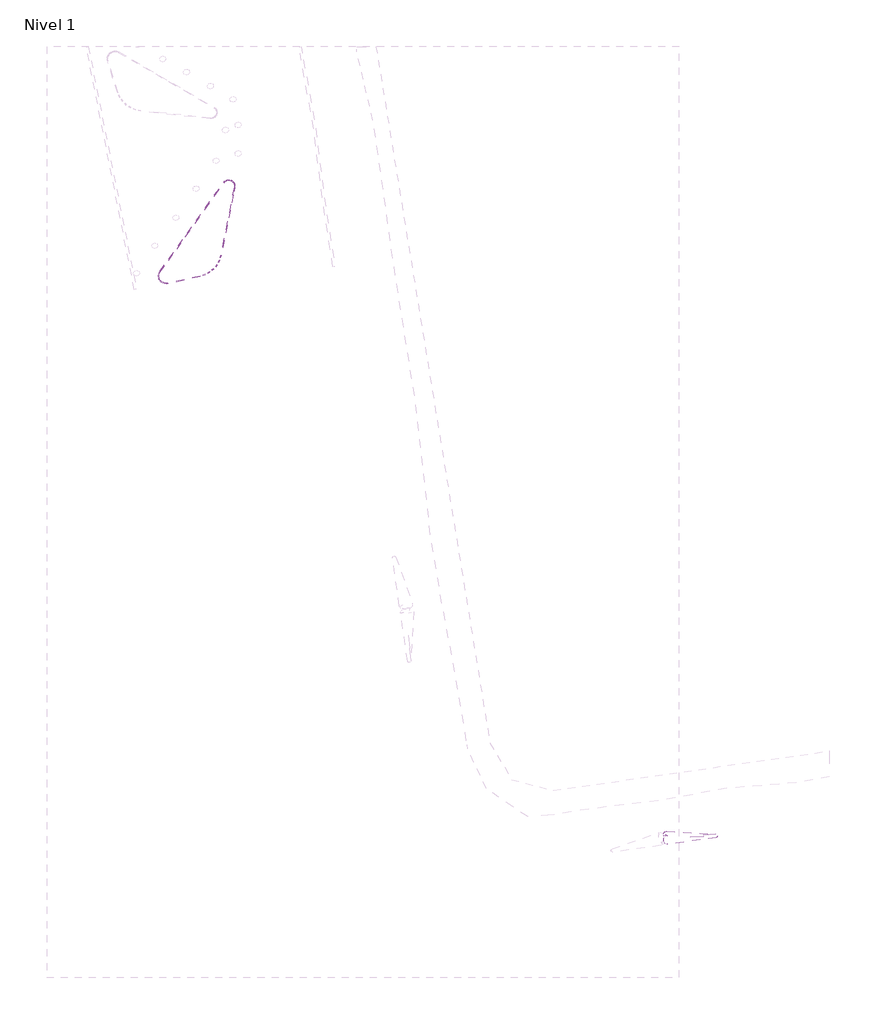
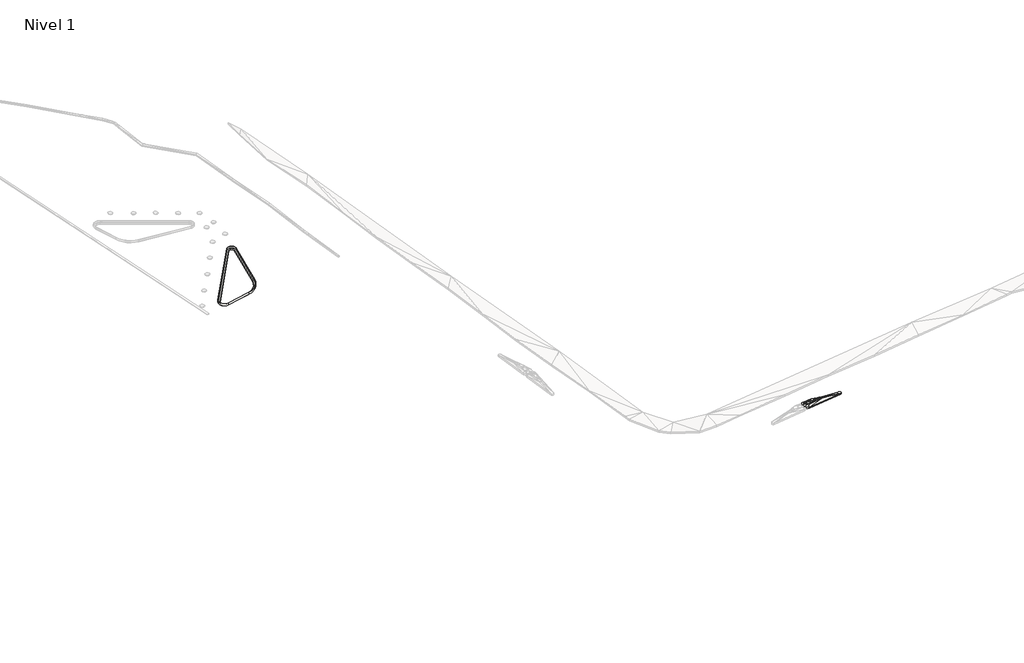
# One storey, part 22 of 45: 3 slabs.
"""IFC4 building model written with IfcOpenShell, lengths in millimetres."""

from ifc_helpers import new_model, si_unit, point, frame, frame_2d, origin, place, context, project, spatial, polyline, circle_curve, trimmed, segment, composite_curve, outline, extrude, element, save
from ifc_brep_helpers import plane_surface, cylinder_surface, revolved_surface, spline_surface, advanced_brep

model = new_model("IFC4")

# Units and contexts
model_context = context("Model", 3, world=origin())
ifc_project = project(units=[si_unit("LENGTHUNIT", "METRE", prefix="MILLI")], contexts=[model_context])

# Site, building, storey
site = spatial("IfcSite", under=ifc_project)
building = spatial("IfcBuilding", under=site)
storey = spatial("IfcBuildingStorey", under=building, Name="Nivel 1", Elevation=0.0)

# Slabs
placement = place(None, origin())
element("IfcSlab", 1, ObjectType="Lippia", at=placement, inside=storey, context=model_context, shape_type="AdvancedBrep", body=[
    advanced_brep(
    [(-261117.3024726, 32384.1914474, 4450.0), (-261117.3024726, 32384.1914474, 4750.0), (-261244.0737369, 33268.4863471, 4750.0), (-261244.0737369, 33268.4863471, 4450.0), (-260720.0315062, 33838.5932608, 4750.0), (-260720.0315062, 33838.5932608, 4450.0), (-253668.9456404, 33450.2364035, 4750.0), (-253668.9456404, 33450.2364035, 4450.0), (-253648.473085, 32952.9636738, 4450.0), (-253648.473085, 32952.9636738, 4750.0), (-260553.7486586, 31963.1441472, 4750.0), (-260553.7486586, 31963.1441472, 4450.0), (-260557.0106471, 33156.6650893, 5050.0), (-260657.9708594, 32666.3753611, 5050.0), (-260557.0106471, 33156.6650893, 4750.0), (-260657.9708594, 32666.3753611, 4750.0), (-258834.7530662, 33162.1386706, 5250.0), (-259101.2837879, 33275.7652701, 5250.0), (-259367.8145097, 33389.3918696, 5250.0), (-259707.8595562, 33222.1320633, 5250.0), (-259545.4170187, 32803.2782052, 5250.0), (-259262.5825667, 32744.7394856, 5250.0), (-259028.9960812, 32696.3936999, 5250.0), (-258691.8228878, 32858.5394125, 5250.0), (-258834.7530662, 33162.1386706, 4950.0), (-258691.8228878, 32858.5394125, 4950.0), (-259028.9960812, 32696.3936999, 4950.0), (-259262.5825667, 32744.7394856, 4950.0), (-259545.4170187, 32803.2782052, 4950.0), (-259707.8595562, 33222.1320633, 4950.0), (-259367.8145097, 33389.3918696, 4950.0), (-259101.2837879, 33275.7652701, 4950.0), (-260374.3464463, 32368.9868858, 5050.0), (-260594.0199557, 32443.4234835, 5050.0), (-260374.3464463, 32368.9868858, 4750.0), (-260594.0199557, 32443.4234835, 4750.0), (-260362.1933764, 33463.4940107, 5050.0), (-260362.1933764, 33463.4940107, 4750.0), (-260011.0632401, 33557.3310151, 5050.0), (-257554.6087555, 33295.0667742, 5050.0), (-257554.6087555, 33295.0667742, 4750.0), (-260011.0632401, 33557.3310151, 4750.0), (-257543.5970723, 32799.3156986, 5050.0), (-257543.5970723, 32799.3156986, 4750.0), (-257331.2116419, 33052.041782, 5050.0), (-257331.2116419, 33052.041782, 4750.0)],
    [
        (0, 1),
        (1, 2),
        (2, 3),
        (3, 0),
        (2, 4, circle_curve(frame((-260749.1303874, 33339.4407247, 4750.0), z_axis=(0.0, 0.0, -1.0), x_axis=(-0.22900703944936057, 0.9734247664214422, 0.0)), 499.9999992)),
        (4, 5),
        (5, 3, circle_curve(frame((-260749.1303874, 33339.4407247, 4450.0), z_axis=(0.0, 0.0, 1.0), x_axis=(-0.22900703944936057, 0.9734247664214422, 0.0)), 499.9999992)),
        (4, 6),
        (6, 7),
        (7, 5),
        (8, 9),
        (9, 10),
        (10, 11),
        (11, 8),
        (10, 1, circle_curve(frame((-260622.8323345, 32458.3485957, 4750.0), z_axis=(0.0, 0.0, -1.0), x_axis=(-0.22900703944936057, 0.9734247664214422, 0.0)), 500.0000001)),
        (0, 11, circle_curve(frame((-260622.8323345, 32458.3485957, 4450.0), z_axis=(0.0, 0.0, 1.0), x_axis=(-0.22900703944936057, 0.9734247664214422, 0.0)), 500.0000001)),
        (2, 12),
        (12, 4),
        (1, 13),
        (13, 2),
        (5, 14),
        (14, 3),
        (3, 15),
        (15, 0),
        (16, 17),
        (17, 18),
        (18, 19),
        (19, 20),
        (20, 21),
        (21, 22),
        (22, 23),
        (23, 16),
        (24, 25),
        (25, 26),
        (26, 27),
        (27, 28),
        (28, 29),
        (29, 30),
        (30, 31),
        (31, 24),
        (20, 32),
        (32, 22),
        (10, 32),
        (32, 33),
        (33, 10),
        (19, 32),
        (26, 34),
        (34, 28),
        (11, 35),
        (35, 34),
        (34, 11),
        (34, 29),
        (32, 12),
        (12, 13),
        (13, 33),
        (19, 12),
        (12, 36),
        (36, 4),
        (35, 15),
        (15, 14),
        (14, 34),
        (14, 29),
        (5, 37),
        (37, 14),
        (4, 38),
        (38, 39),
        (39, 4),
        (19, 38),
        (38, 36),
        (36, 19),
        (5, 40),
        (40, 41),
        (41, 5),
        (29, 37),
        (37, 41),
        (41, 29),
        (22, 42),
        (42, 23),
        (23, 39),
        (39, 16),
        (39, 18),
        (25, 43),
        (43, 26),
        (24, 40),
        (40, 25),
        (30, 40),
        (42, 39),
        (40, 43),
        (1, 33),
        (35, 0),
        (10, 42),
        (42, 32),
        (42, 44),
        (44, 39),
        (18, 38),
        (34, 43),
        (43, 11),
        (40, 45),
        (45, 43),
        (41, 30),
        (6, 9, circle_curve(frame((-253682.6944408, 33200.6103949, 4750.0), z_axis=(0.0, 0.0, -1.0), x_axis=(-0.22900703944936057, 0.9734247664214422, 0.0)), 249.9999994)),
        (8, 7, circle_curve(frame((-253682.6944408, 33200.6103949, 4450.0), z_axis=(0.0, 0.0, 1.0), x_axis=(-0.22900703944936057, 0.9734247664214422, 0.0)), 249.9999994)),
        (9, 42),
        (9, 44),
        (6, 44),
        (6, 39),
        (43, 8),
        (45, 8),
        (45, 7),
        (40, 7),
    ],
    [
        plane_surface(frame((-261117.3024726, 32384.1914474, 4450.0), z_axis=(-0.9898798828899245, -0.14190777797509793, 0.0), x_axis=(0.0, 0.0, 1.0))),
        cylinder_surface(frame((-260749.1303874, 33339.4407247, 4750.0), z_axis=(0.0, 0.0, -1.0000000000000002), x_axis=(-0.22900703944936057, 0.9734247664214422, 0.0)), 499.9999992),
        plane_surface(frame((-260720.0315062, 33838.5932608, 4450.0), z_axis=(0.054994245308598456, 0.9984866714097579, 0.0), x_axis=(0.0, 0.0, 1.0))),
        plane_surface(frame((-253648.473085, 32952.9636738, 4450.0), z_axis=(0.14189218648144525, -0.9898821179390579, 0.0), x_axis=(0.0, 0.0, 1.0))),
        cylinder_surface(frame((-260622.8323345, 32458.3485957, 4750.0), z_axis=(0.0, 0.0, -1.0000000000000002), x_axis=(-0.22900703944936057, 0.9734247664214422, 0.0)), 500.0000001),
        spline_surface(2, 1, [[(-260720.0315062, 33838.5932608, 4750.0), (-260557.0106471, 33156.6650893, 5050.0)], [(-260956.76537591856, 33852.39403361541, 4750.0), (-260557.0106471, 33156.6650893, 5050.0)], [(-261117.24355902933, 33677.808412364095, 4750.0), (-260557.0106471, 33156.6650893, 5050.0)], [(-261277.72174214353, 33503.222791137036, 4750.0), (-260557.0106471, 33156.6650893, 5050.0)], [(-261244.070328, 33268.4868358, 4750.0), (-260557.0106471, 33156.6650893, 5050.0)]], [3, 2, 3], [2, 2], [0.0, 1.0, 2.0], [0.0, 1.0], weights=[[1.0, 1.0], [0.903532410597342, 0.903532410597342], [1.0, 1.0], [0.903532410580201, 0.903532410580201], [1.0, 1.0]]),
        plane_surface(frame((-261006.449023, 32773.0177186, 4850.0), z_axis=(-0.5132632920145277, -0.07358069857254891, 0.8550711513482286), x_axis=(0.1419077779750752, -0.9898798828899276, 0.0))),
        spline_surface(1, 2, [[(-260720.0315062, 33838.5932608, 4450.0), (-260956.76537591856, 33852.39403361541, 4450.0), (-261117.24355902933, 33677.808412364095, 4450.0), (-261277.72174214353, 33503.222791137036, 4450.0), (-261244.070328, 33268.4868358, 4450.0)], [(-260557.0106471, 33156.6650893, 4750.0), (-260557.0106471, 33156.6650893, 4750.0), (-260557.0106471, 33156.6650893, 4750.0), (-260557.0106471, 33156.6650893, 4750.0), (-260557.0106471, 33156.6650893, 4750.0)]], [2, 2], [3, 2, 3], [0.0, 1.0], [0.0, 1.0, 2.0], weights=[[1.0, 0.903532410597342, 1.0, 0.903532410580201, 1.0], [1.0, 0.903532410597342, 1.0, 0.903532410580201, 1.0]]),
        plane_surface(frame((-261006.449023, 32773.0177186, 4550.0), z_axis=(0.5132632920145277, 0.07358069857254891, -0.8550711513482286), x_axis=(0.1419077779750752, -0.9898798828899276, 0.0))),
        plane_surface(frame((-259196.11052, 33021.9789869, 5250.0), z_axis=(0.0, 0.0, 1.0), x_axis=(-0.9198942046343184, 0.39216661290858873, 0.0))),
        plane_surface(frame((-259196.11052, 33021.9789869, 4950.0), z_axis=(0.0, 0.0, -1.0), x_axis=(-0.9198942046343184, 0.39216661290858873, 0.0))),
        plane_surface(frame((-259649.5865154, 32622.8862636, 5183.3333333), z_axis=(-0.06474386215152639, -0.31281508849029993, 0.9476048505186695), x_axis=(-0.9792458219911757, 0.2026761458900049, 0.0))),
        plane_surface(frame((-260507.3716869, 32258.5181722, 4950.0), z_axis=(-0.18024430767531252, -0.5319278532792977, 0.8273842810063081), x_axis=(0.3349403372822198, 0.7577002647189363, 0.5600939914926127))),
        plane_surface(frame((-259875.8743404, 32798.1323848, 5183.3333333), z_axis=(-0.19604627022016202, -0.07603189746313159, 0.9776425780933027), x_axis=(-0.6053816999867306, -0.7749266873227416, -0.18166349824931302))),
        plane_surface(frame((-259649.5865154, 32622.8862636, 4883.3333333), z_axis=(0.06474386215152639, 0.31281508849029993, -0.9476048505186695), x_axis=(-0.9792458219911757, 0.2026761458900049, 0.0))),
        plane_surface(frame((-260507.3716869, 32258.5181722, 4650.0), z_axis=(0.18024430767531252, 0.5319278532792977, -0.8273842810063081), x_axis=(0.3349403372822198, 0.7577002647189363, 0.5600939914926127))),
        plane_surface(frame((-259875.8743404, 32798.1323848, 4883.3333333), z_axis=(0.19604627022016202, 0.07603189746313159, -0.9776425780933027), x_axis=(-0.6053816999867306, -0.7749266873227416, -0.18166349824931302))),
        plane_surface(frame((-260545.8369771, 32658.8627049, 5050.0), z_axis=(0.0, 0.0, 1.0), x_axis=(-0.225907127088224, 0.9741488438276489, 0.0))),
        plane_surface(frame((-260213.0722165, 32915.9280128, 5116.6666667), z_axis=(-0.2251283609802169, -0.05220773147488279, 0.9729293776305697), x_axis=(-0.9706368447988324, -0.07483315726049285, -0.2286134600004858))),
        plane_surface(frame((-260546.4118432, 33486.2507869, 4950.0), z_axis=(-0.43233658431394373, 0.27450682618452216, 0.858912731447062), x_axis=(0.2137618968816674, -0.8941816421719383, 0.39337646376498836))),
        plane_surface(frame((-260819.6850811, 33030.5089325, 4950.0), z_axis=(-0.3879314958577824, 0.07988265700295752, 0.9182199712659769), x_axis=(0.6569049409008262, -0.6748468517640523, 0.33624042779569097))),
        plane_surface(frame((-260545.8369771, 32658.8627049, 4750.0), z_axis=(0.0, 0.0, -1.0), x_axis=(-0.225907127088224, 0.9741488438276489, 0.0))),
        plane_surface(frame((-260213.0722165, 32915.9280128, 4816.6666667), z_axis=(0.2251283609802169, 0.05220773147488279, -0.9729293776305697), x_axis=(-0.9706368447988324, -0.07483315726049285, -0.2286134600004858))),
        plane_surface(frame((-260546.4118432, 33486.2507869, 4650.0), z_axis=(0.43233658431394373, -0.27450682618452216, -0.858912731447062), x_axis=(0.2137618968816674, -0.8941816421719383, 0.39337646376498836))),
        plane_surface(frame((-260819.6850811, 33030.5089325, 4650.0), z_axis=(0.3879314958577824, -0.07988265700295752, -0.9182199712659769), x_axis=(0.6569049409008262, -0.6748468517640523, 0.33624042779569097))),
        plane_surface(frame((-259428.5678339, 33563.6636834, 4950.0), z_axis=(0.08773275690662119, 0.8217343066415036, 0.56307698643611), x_axis=(0.8650172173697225, -0.34317006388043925, 0.36603213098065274))),
        plane_surface(frame((-260027.0387242, 33414.3190297, 5116.6666667), z_axis=(-0.11497572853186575, 0.43022945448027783, 0.8953676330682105), x_axis=(-0.6134524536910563, 0.6781864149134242, -0.40464709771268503))),
        plane_surface(frame((-259428.5678339, 33563.6636834, 4650.0), z_axis=(-0.08773275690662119, -0.8217343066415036, -0.56307698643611), x_axis=(0.8650172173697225, -0.34317006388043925, 0.36603213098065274))),
        plane_surface(frame((-260027.0387242, 33414.3190297, 4816.6666667), z_axis=(0.11497572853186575, -0.43022945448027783, -0.8953676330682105), x_axis=(-0.6134524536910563, 0.6781864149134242, -0.40464709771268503))),
        plane_surface(frame((-258421.4720138, 32784.7496037, 5183.3333333), z_axis=(0.14786984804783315, -0.307487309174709, 0.9399925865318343), x_axis=(-0.9012073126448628, -0.4333882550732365, 0.0))),
        plane_surface(frame((-258360.3949032, 33105.2482858, 5183.3333333), z_axis=(0.1469723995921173, 0.0691924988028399, 0.9867175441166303), x_axis=(0.4259432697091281, -0.9047498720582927, 0.0))),
        plane_surface(frame((-258585.7254438, 33282.1991048, 5183.3333333), z_axis=(0.11964273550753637, 0.2806426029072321, 0.9523262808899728), x_axis=(0.9828557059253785, 0.10205813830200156, -0.15355389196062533))),
        plane_surface(frame((-258421.4720138, 32784.7496037, 4883.3333333), z_axis=(-0.14786984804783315, 0.307487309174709, -0.9399925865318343), x_axis=(-0.9012073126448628, -0.4333882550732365, 0.0))),
        plane_surface(frame((-258360.3949032, 33105.2482858, 4883.3333333), z_axis=(-0.1469723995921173, -0.0691924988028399, -0.9867175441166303), x_axis=(0.4259432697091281, -0.9047498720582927, 0.0))),
        plane_surface(frame((-258585.7254438, 33282.1991048, 4883.3333333), z_axis=(-0.11964273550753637, -0.2806426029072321, -0.9523262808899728), x_axis=(0.9828557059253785, 0.10205813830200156, -0.15355389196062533))),
        plane_surface(frame((-257930.0095719, 32984.3072951, 5116.6666667), z_axis=(0.17178789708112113, 0.003815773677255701, 0.9851265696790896), x_axis=(0.9838976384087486, -0.05074792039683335, -0.1713770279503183))),
        plane_surface(frame((-257930.0095719, 32984.3072951, 4816.6666667), z_axis=(-0.17178789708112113, -0.003815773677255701, -0.9851265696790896), x_axis=(0.9838976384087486, -0.05074792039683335, -0.1713770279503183))),
        plane_surface(frame((-260789.7644292, 32497.996764, 4950.0), z_axis=(-0.4808166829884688, -0.1379161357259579, 0.8659067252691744), x_axis=(0.8633884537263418, 0.09772972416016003, 0.49498411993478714))),
        spline_surface(2, 1, [[(-261117.3024726, 32384.1914474, 4750.0), (-260594.0199557, 32443.4234835, 5050.0)], [(-261043.9017656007, 31894.765160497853, 4750.0), (-260594.0199557, 32443.4234835, 5050.0)], [(-260553.7486586, 31963.1441472, 4750.0), (-260594.0199557, 32443.4234835, 5050.0)]], [3, 3], [2, 2], [0.0, 1.0], [0.0, 1.0], weights=[[1.0, 1.0], [0.7107223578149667, 0.7107223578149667], [1.0, 1.0]]),
        plane_surface(frame((-260789.7644292, 32497.996764, 4650.0), z_axis=(0.4808166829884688, 0.1379161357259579, -0.8659067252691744), x_axis=(0.8633884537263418, 0.09772972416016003, 0.49498411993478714))),
        spline_surface(1, 2, [[(-261117.3024726, 32384.1914474, 4450.0), (-261043.9017656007, 31894.765160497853, 4450.0), (-260553.7486586, 31963.1441472, 4450.0)], [(-260594.0199557, 32443.4234835, 4750.0), (-260594.0199557, 32443.4234835, 4750.0), (-260594.0199557, 32443.4234835, 4750.0)]], [2, 2], [3, 3], [0.0, 1.0], [0.0, 1.0], weights=[[1.0, 0.7107223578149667, 1.0], [1.0, 0.7107223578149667, 1.0]]),
        plane_surface(frame((-260209.0211932, 33280.7637211, 5116.6666667), z_axis=(-0.23763812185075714, 0.15088541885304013, 0.9595632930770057), x_axis=(-0.9018576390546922, 0.33266523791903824, -0.2756567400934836))),
        plane_surface(frame((-260209.0211932, 33280.7637211, 4816.6666667), z_axis=(0.23763812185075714, -0.15088541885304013, -0.9595632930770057), x_axis=(-0.9018576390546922, 0.33266523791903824, -0.2756567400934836))),
        plane_surface(frame((-259490.5640591, 32377.1489105, 4950.0), z_axis=(0.09399861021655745, -0.6183330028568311, 0.7802746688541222), x_axis=(0.9591045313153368, 0.266423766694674, 0.09558699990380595))),
        plane_surface(frame((-257476.4724899, 33048.8080849, 5050.0), z_axis=(0.0, 0.0, 1.0), x_axis=(0.02220664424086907, -0.9997534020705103, 0.0))),
        plane_surface(frame((-259695.579102, 33389.618316, 5183.3333333), z_axis=(-0.18451300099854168, 0.37512139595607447, 0.9084266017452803), x_axis=(0.8973243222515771, 0.44137179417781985, 0.0))),
        plane_surface(frame((-260364.4293742, 33619.8060955, 4950.0), z_axis=(-0.14216889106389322, 0.5319839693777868, 0.8347341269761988), x_axis=(0.5974370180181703, -0.6262557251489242, 0.5008720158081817))),
        plane_surface(frame((-259490.5640591, 32377.1489105, 4650.0), z_axis=(-0.09399861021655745, 0.6183330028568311, -0.7802746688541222), x_axis=(0.9591045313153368, 0.266423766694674, 0.09558699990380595))),
        plane_surface(frame((-257476.4724899, 33048.8080849, 4750.0), z_axis=(0.0, 0.0, -1.0), x_axis=(0.02220664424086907, -0.9997534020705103, 0.0))),
        plane_surface(frame((-259695.579102, 33389.618316, 4883.3333333), z_axis=(0.18451300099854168, -0.37512139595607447, -0.9084266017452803), x_axis=(0.8973243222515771, 0.44137179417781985, 0.0))),
        plane_surface(frame((-260364.4293742, 33619.8060955, 4650.0), z_axis=(0.14216889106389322, -0.5319839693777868, -0.8347341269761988), x_axis=(0.5974370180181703, -0.6262557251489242, 0.5008720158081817))),
        plane_surface(frame((-258982.3131999, 32621.5654281, 5116.6666667), z_axis=(0.12845034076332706, -0.8449602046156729, 0.519175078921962), x_axis=(-0.9616608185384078, -0.23403145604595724, -0.14296065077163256))),
        plane_surface(frame((-258982.3131999, 32621.5654281, 4816.6666667), z_axis=(-0.12845034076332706, 0.8449602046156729, -0.519175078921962), x_axis=(-0.9616608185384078, -0.23403145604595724, -0.14296065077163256))),
        plane_surface(frame((-258977.8288351, 33413.9298863, 5116.6666667), z_axis=(0.09520013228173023, 0.8916762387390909, 0.44254990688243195), x_axis=(0.992645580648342, -0.051638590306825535, -0.10949067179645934))),
        plane_surface(frame((-258977.8288351, 33413.9298863, 4816.6666667), z_axis=(-0.09520013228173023, -0.8916762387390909, -0.44254990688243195), x_axis=(0.992645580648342, -0.051638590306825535, -0.10949067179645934))),
        cylinder_surface(frame((-253682.6944408, 33200.6103949, 4750.0), z_axis=(0.0, 0.0, -1.0000000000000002), x_axis=(-0.22900703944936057, 0.9734247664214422, 0.0)), 249.9999994),
        plane_surface(frame((-257248.6062719, 32571.8078398, 4850.0), z_axis=(0.08505441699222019, -0.5933649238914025, 0.8004272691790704), x_axis=(0.9898821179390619, 0.1418921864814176, 0.0))),
        plane_surface(frame((-256174.4272664, 32934.7737181, 4950.0), z_axis=(0.07923230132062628, -0.06658507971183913, 0.9946299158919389), x_axis=(0.9962769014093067, 0.039299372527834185, -0.07673262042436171))),
        spline_surface(2, 1, [[(-253648.473085, 32952.9636738, 4750.0), (-257331.2116419, 33052.041782, 5050.0)], [(-253423.566450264, 32984.042663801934, 4750.0), (-257331.2116419, 33052.041782, 5050.0)], [(-253432.90604889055, 33210.89431106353, 4750.0), (-257331.2116419, 33052.041782, 5050.0)], [(-253442.2456475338, 33437.74595832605, 4750.0), (-257331.2116419, 33052.041782, 5050.0)], [(-253668.9458795, 33450.2320621, 4750.0), (-257331.2116419, 33052.041782, 5050.0)]], [3, 2, 3], [2, 2], [0.0, 1.0, 2.0], [0.0, 1.0], weights=[[1.0, 1.0], [0.7402773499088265, 0.7402773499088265], [1.0, 1.0], [0.7402773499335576, 0.7402773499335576], [1.0, 1.0]]),
        plane_surface(frame((-256184.9220126, 33265.7816532, 4950.0), z_axis=(0.07409495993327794, 0.06811069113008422, 0.9949225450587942), x_axis=(0.6767515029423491, -0.7362115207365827, 0.0))),
        plane_surface(frame((-257314.528634, 33527.9654795, 4850.0), z_axis=(0.034713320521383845, 0.6302620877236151, 0.7756060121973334), x_axis=(0.981304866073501, -0.16849729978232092, 0.09300225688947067))),
        plane_surface(frame((-257248.6062719, 32571.8078398, 4550.0), z_axis=(-0.08505441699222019, 0.5933649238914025, -0.8004272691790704), x_axis=(0.9898821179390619, 0.1418921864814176, 0.0))),
        plane_surface(frame((-256174.4272664, 32934.7737181, 4650.0), z_axis=(-0.07923230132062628, 0.06658507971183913, -0.9946299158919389), x_axis=(0.9962769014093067, 0.039299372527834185, -0.07673262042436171))),
        spline_surface(1, 2, [[(-253648.473085, 32952.9636738, 4450.0), (-253423.566450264, 32984.042663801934, 4450.0), (-253432.90604889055, 33210.89431106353, 4450.0), (-253442.2456475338, 33437.74595832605, 4450.0), (-253668.9458795, 33450.2320621, 4450.0)], [(-257331.2116419, 33052.041782, 4750.0), (-257331.2116419, 33052.041782, 4750.0), (-257331.2116419, 33052.041782, 4750.0), (-257331.2116419, 33052.041782, 4750.0), (-257331.2116419, 33052.041782, 4750.0)]], [2, 2], [3, 2, 3], [0.0, 1.0], [0.0, 1.0, 2.0], weights=[[1.0, 0.7402773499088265, 1.0, 0.7402773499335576, 1.0], [1.0, 0.7402773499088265, 1.0, 0.7402773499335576, 1.0]]),
        plane_surface(frame((-256184.9220126, 33265.7816532, 4650.0), z_axis=(-0.07409495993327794, -0.06811069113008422, -0.9949225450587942), x_axis=(0.6767515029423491, -0.7362115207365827, 0.0))),
        plane_surface(frame((-257314.528634, 33527.9654795, 4550.0), z_axis=(-0.034713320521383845, -0.6302620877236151, -0.7756060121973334), x_axis=(0.981304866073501, -0.16849729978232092, 0.09300225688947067))),
    ],
    [
        (0, [[1, 2, 3, 4]]),
        (1, [[-3, 5, 6, 7]]),
        (2, [[-6, 8, 9, 10]]),
        (3, [[11, 12, 13, 14]]),
        (4, [[-13, 15, -1, 16]]),
        (5, [[-5, 17, 18]]),
        (6, [[-2, 19, 20]]),
        (7, [[21, 22, -7]]),
        (8, [[23, 24, -4]]),
        (9, [[25, 26, 27, 28, 29, 30, 31, 32]]),
        (10, [[33, 34, 35, 36, 37, 38, 39, 40]]),
        (11, [[-29, 41, 42, -30]]),
        (12, [[43, 44, 45]]),
        (13, [[46, -41, -28]]),
        (14, [[-35, 47, 48, -36]]),
        (15, [[49, 50, 51]]),
        (16, [[-37, -48, 52]]),
        (17, [[53, 54, 55, -44]]),
        (18, [[56, -53, -46]]),
        (19, [[-18, 57, 58]]),
        (20, [[-20, -54, -17]]),
        (21, [[-50, 59, 60, 61]]),
        (22, [[-52, -61, 62]]),
        (23, [[63, 64, -21]]),
        (24, [[-22, -60, -23]]),
        (25, [[65, 66, 67]]),
        (26, [[68, 69, 70]]),
        (27, [[71, 72, 73]]),
        (28, [[74, 75, 76]]),
        (29, [[-31, 77, 78]]),
        (30, [[-32, 79, 80]]),
        (31, [[-80, 81, -26, -25]]),
        (32, [[82, 83, -34]]),
        (33, [[84, 85, -33]]),
        (34, [[-40, -39, 86, -84]]),
        (35, [[-78, 87, -79]]),
        (36, [[-85, 88, -82]]),
        (37, [[89, -55, -19]]),
        (38, [[-45, -89, -15]]),
        (39, [[-24, -59, 90]]),
        (40, [[-16, -90, -49]]),
        (41, [[-70, -57, -56]]),
        (42, [[-62, -64, -74]]),
        (43, [[91, 92, -43]]),
        (44, [[-87, 93, 94]]),
        (45, [[-27, 95, -68]]),
        (46, [[-58, -69, -65]]),
        (47, [[-51, 96, 97]]),
        (48, [[98, 99, -88]]),
        (49, [[-76, 100, -38]]),
        (50, [[-73, -75, -63]]),
        (51, [[-42, -92, -77]]),
        (52, [[-83, -96, -47]]),
        (53, [[-81, -66, -95]]),
        (54, [[-100, -72, -86]]),
        (55, [[-9, 101, -11, 102]]),
        (56, [[-12, 103, -91]]),
        (57, [[-103, 104, -93]]),
        (58, [[-104, -101, 105]]),
        (59, [[-94, -105, 106]]),
        (60, [[-67, -106, -8]]),
        (61, [[-97, 107, -14]]),
        (62, [[-99, 108, -107]]),
        (63, [[109, -102, -108]]),
        (64, [[110, -109, -98]]),
        (65, [[-10, -110, -71]]),
    ],
),
])
element("IfcSlab", 2, ObjectType="Bordillo", at=placement, inside=storey, context=model_context, shape_type="SweptSolid", body=[
    extrude(outline(composite_curve([segment(trimmed(circle_curve(frame_2d((-323537.0611318, 126406.4293006)), 899.9999999), [point((-324269.3927911, 126929.5835231))], [point((-322654.548129, 126229.8767597))], False, "CARTESIAN"), True, "CONTINUOUS"), segment(polyline([(-322654.548129, 126229.8767597), (-324618.0731986, 116415.0284632)]), True, "CONTINUOUS"), segment(trimmed(circle_curve(frame_2d((-328442.2962137, 117180.0894743)), 3900.0000026), [point((-324618.0731986, 116415.0284632))], [point((-327600.0430632, 113372.1228711))], False, "CARTESIAN"), True, "CONTINUOUS"), segment(polyline([(-327600.0430632, 113372.1228711), (-332220.7094746, 112350.1152623)]), True, "CONTINUOUS"), segment(trimmed(circle_curve(frame_2d((-332469.0661727, 113472.9772085)), 1149.9999999), [point((-332220.7094746, 112350.1152623))], [point((-333404.8429381, 114141.4245476))], False, "CARTESIAN"), True, "CONTINUOUS"), segment(polyline([(-333404.8429381, 114141.4245476), (-324269.3927911, 126929.5835231)]), True, "CONTINUOUS")], self_intersect=False), holes=[composite_curve([segment(polyline([(-324188.022608, 126871.4552765), (-333323.4531089, 114083.3238011)]), True, "CONTINUOUS"), segment(trimmed(circle_curve(frame_2d((-332469.0661739, 113472.9772071)), 1049.9999998), [point((-333323.4531089, 114083.3238011))], [point((-332242.3057098, 112447.7554303))], True, "CARTESIAN"), True, "CONTINUOUS"), segment(polyline([(-332242.3057098, 112447.7554303), (-327621.6392958, 113469.7630411)]), True, "CONTINUOUS"), segment(trimmed(circle_curve(frame_2d((-328442.2962122, 117180.0894725)), 3800.0000003), [point((-327621.6392958, 113469.7630411))], [point((-324716.1301997, 116434.6454107))], True, "CARTESIAN"), True, "CONTINUOUS"), segment(polyline([(-324716.1301997, 116434.6454107), (-322752.5996467, 126249.5211167)]), True, "CONTINUOUS"), segment(trimmed(circle_curve(frame_2d((-323537.0611324, 126406.4293006)), 800.0000005), [point((-322752.5996467, 126249.5211167))], [point((-324188.022608, 126871.4552765))], True, "CARTESIAN"), True, "CONTINUOUS")], self_intersect=False)]), frame((0.0, 0.0, 3100.0), z_axis=(0.0, 0.0, 1.0), x_axis=(1.0, 0.0, 0.0)), (0.0, 0.0, 1.0), 400.0),
])
element("IfcSlab", 3, ObjectType="Tierra de Chacra (20cm)", at=placement, inside=storey, context=model_context, shape_type="AdvancedBrep", body=[
    advanced_brep(
    [(-324188.0226082, 126871.4552765, 3000.0), (-322752.6051311, 126249.4937086, 3000.0), (-324716.1302047, 116434.6454123, 3000.0), (-327621.6393038, 113469.7630427, 3000.0), (-332242.2043919, 112447.7778467, 3000.0), (-333323.4531118, 114083.3238014, 3000.0), (-333079.3425581, 113908.9390614, 3000.0), (-332307.0087844, 112740.6948844, 3000.0), (-327686.4280075, 113762.6835505, 3000.0), (-325010.3012057, 116493.4962594, 3000.0), (-323046.7761321, 126308.3445556, 3000.0), (-323943.9120552, 126697.0705356, 3000.0), (-324188.0226082, 126871.4552765, 3200.0), (-333323.4531118, 114083.3238014, 3200.0), (-332242.2043919, 112447.7778467, 3200.0), (-327621.6393038, 113469.7630427, 3200.0), (-324716.1302047, 116434.6454123, 3200.0), (-322752.6051311, 126249.4937086, 3200.0), (-333079.342563, 113908.9390644, 3200.0), (-323943.9120552, 126697.0705356, 3200.0), (-323046.7761321, 126308.3445556, 3200.0), (-325010.3012057, 116493.4962594, 3200.0), (-327686.4280075, 113762.6835505, 3200.0), (-332307.0087844, 112740.6948844, 3200.0)],
    [
        (0, 1, circle_curve(frame((-323537.0611335, 126406.4293008, 3000.0), z_axis=(0.0, 0.0, -1.0), x_axis=(1.0, 0.0, 0.0)), 799.9999998)),
        (1, 2),
        (2, 3, circle_curve(frame((-328442.2962179, 117180.0894756, 3000.0), z_axis=(0.0, 0.0, -1.0), x_axis=(1.0, 0.0, 0.0)), 3800.0000013)),
        (3, 4),
        (4, 5, circle_curve(frame((-332469.0661728, 113472.9772104, 3000.0), z_axis=(0.0, 0.0, -1.0), x_axis=(1.0, 0.0, 0.0)), 1050.0000013)),
        (5, 0),
        (6, 7, circle_curve(frame((-332469.0661728, 113472.9772104, 3000.0), z_axis=(0.0, 0.0, 1.0), x_axis=(1.0, 0.0, 0.0)), 750.0000013)),
        (7, 8),
        (8, 9, circle_curve(frame((-328442.2962179, 117180.0894756, 3000.0), z_axis=(0.0, 0.0, 1.0), x_axis=(1.0, 0.0, 0.0)), 3500.0000013)),
        (9, 10),
        (10, 11, circle_curve(frame((-323537.0611335, 126406.4293008, 3000.0), z_axis=(0.0, 0.0, 1.0), x_axis=(1.0, 0.0, 0.0)), 499.9999998)),
        (11, 6),
        (12, 13),
        (13, 14, circle_curve(frame((-332469.0661728, 113472.9772104, 3200.0), z_axis=(0.0, 0.0, 1.0), x_axis=(1.0, 0.0, 0.0)), 1050.0000013)),
        (14, 15),
        (15, 16, circle_curve(frame((-328442.2962179, 117180.0894756, 3200.0), z_axis=(0.0, 0.0, 1.0), x_axis=(1.0, 0.0, 0.0)), 3800.0000013)),
        (16, 17),
        (17, 12, circle_curve(frame((-323537.0611335, 126406.4293008, 3200.0), z_axis=(0.0, 0.0, 1.0), x_axis=(1.0, 0.0, 0.0)), 799.9999998)),
        (18, 19),
        (19, 20, circle_curve(frame((-323537.0611335, 126406.4293008, 3200.0), z_axis=(0.0, 0.0, -1.0), x_axis=(1.0, 0.0, 0.0)), 499.9999998)),
        (20, 21),
        (21, 22, circle_curve(frame((-328442.2962179, 117180.0894756, 3200.0), z_axis=(0.0, 0.0, -1.0), x_axis=(1.0, 0.0, 0.0)), 3500.0000013)),
        (22, 23),
        (23, 18, circle_curve(frame((-332469.0661728, 113472.9772104, 3200.0), z_axis=(0.0, 0.0, -1.0), x_axis=(1.0, 0.0, 0.0)), 750.0000013)),
        (6, 18),
        (23, 7),
        (22, 8),
        (21, 9),
        (20, 10),
        (19, 11),
        (0, 12),
        (17, 1),
        (16, 2),
        (15, 3),
        (14, 4),
        (13, 5),
    ],
    [
        plane_surface(frame((-331719.0661714, 113472.9772104, 3000.0), z_axis=(0.0, 0.0, -1.0), x_axis=(0.0, 1.0, 0.0))),
        plane_surface(frame((-331719.0661714, 113472.9772104, 3200.0), z_axis=(0.0, 0.0, 1.0), x_axis=(0.0, -1.0, 0.0))),
        revolved_surface(polyline([(-331719.0661715, 113472.9772104, 3200.0), (-331719.0661715, 113472.9772104, 3000.0)]), (-332469.0661728, 113472.9772104, 3200.0), (0.0, 0.0, 1.0)),
        plane_surface(frame((-332307.0087844, 112740.6948844, 3000.0), z_axis=(-0.21596234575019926, 0.9764016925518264, 0.0), x_axis=(0.0, 0.0, 1.0))),
        revolved_surface(polyline([(-324942.2962166, 117180.0894756, 3200.0), (-324942.2962166, 117180.0894756, 3000.0)]), (-328442.2962179, 117180.0894756, 3200.0), (0.0, 0.0, 1.0)),
        plane_surface(frame((-325010.3012057, 116493.4962594, 3000.0), z_axis=(-0.9805700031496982, 0.1961694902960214, 0.0), x_axis=(0.0, 0.0, 1.0))),
        revolved_surface(polyline([(-323037.0611337, 126406.4293008, 3200.0), (-323037.0611337, 126406.4293008, 3000.0)]), (-323537.0611335, 126406.4293008, 3200.0), (0.0, 0.0, 1.0)),
        plane_surface(frame((-323943.9120552, 126697.0705356, 3000.0), z_axis=(0.8137018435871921, -0.5812824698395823, 0.0), x_axis=(0.0, 0.0, 1.0))),
        cylinder_surface(frame((-323537.0611335, 126406.4293008, 0.0), z_axis=(0.0, 0.0, -1.0), x_axis=(1.0, 0.0, 0.0)), 799.9999998),
        plane_surface(frame((-322752.6051311, 126249.4937086, 3000.0), z_axis=(0.9805700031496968, -0.19616949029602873, 0.0), x_axis=(0.0, 0.0, 1.0))),
        cylinder_surface(frame((-328442.2962179, 117180.0894756, 0.0), z_axis=(0.0, 0.0, -1.0), x_axis=(1.0, 0.0, 0.0)), 3800.0000013),
        plane_surface(frame((-327621.6393038, 113469.7630427, 3000.0), z_axis=(0.2159623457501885, -0.9764016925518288, 0.0), x_axis=(0.0, 0.0, 1.0))),
        cylinder_surface(frame((-332469.0661728, 113472.9772104, 0.0), z_axis=(0.0, 0.0, -1.0), x_axis=(1.0, 0.0, 0.0)), 1050.0000013),
        plane_surface(frame((-333323.4531118, 114083.3238014, 3000.0), z_axis=(-0.8137018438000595, 0.5812824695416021, 0.0), x_axis=(0.0, 0.0, 1.0))),
    ],
    [
        (0, [[1, 2, 3, 4, 5, 6], [7, 8, 9, 10, 11, 12]]),
        (1, [[13, 14, 15, 16, 17, 18], [19, 20, 21, 22, 23, 24]]),
        (2, [[-7, 25, -24, 26]]),
        (3, [[-8, -26, -23, 27]]),
        (4, [[-9, -27, -22, 28]]),
        (5, [[-10, -28, -21, 29]]),
        (6, [[-11, -29, -20, 30]]),
        (7, [[-12, -30, -19, -25]]),
        (8, [[-1, 31, -18, 32]]),
        (9, [[-2, -32, -17, 33]]),
        (10, [[-3, -33, -16, 34]]),
        (11, [[-4, -34, -15, 35]]),
        (12, [[-5, -35, -14, 36]]),
        (13, [[-6, -36, -13, -31]]),
    ],
),
])

save(model, "model.ifc")
